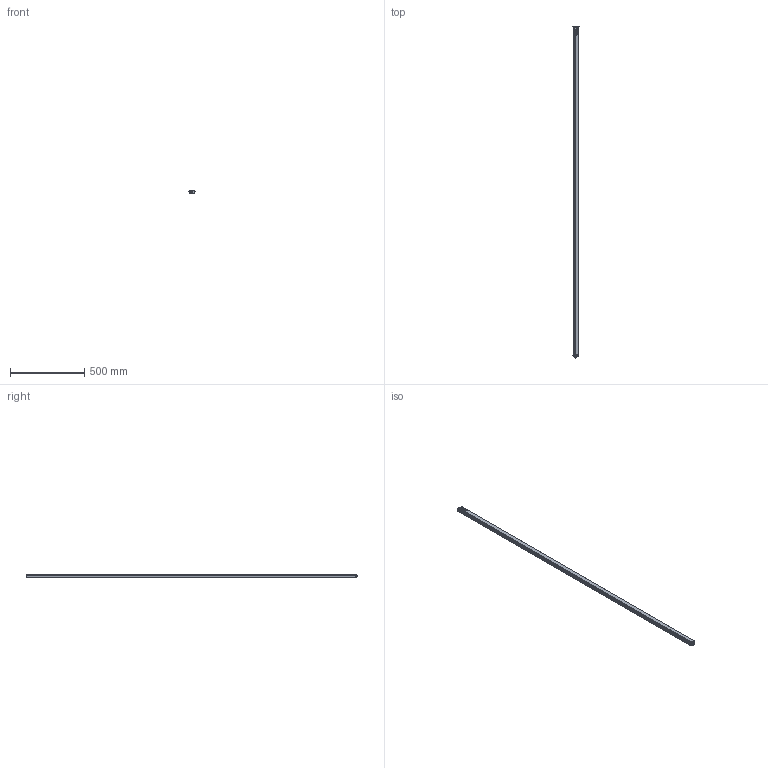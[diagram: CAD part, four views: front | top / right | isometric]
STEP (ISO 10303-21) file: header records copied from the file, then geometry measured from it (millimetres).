
FILE_DESCRIPTION(/* description */ (''),/* implementation_level */ '2;1');
FILE_NAME(/* name */ 'C:\Users\andre\SynologyDrive\Optoscan\Libreria Componenti\00 - Barriere\Polaris sorgente\Polaris_2208_TX.stp',/* time_stamp */ '2021-06-04T11:27:03+02:00',/* author */ ('andre'),/* organization */ (''),/* preprocessor_version */ 'ST-DEVELOPER v18',/* originating_system */ 'Autodesk Inventor 2020',/* authorisation */ '');
FILE_SCHEMA (('AUTOMOTIVE_DESIGN { 1 0 10303 214 3 1 1 }'));
Length unit declared in the file: millimetre
Products named in the file (1): Polaris_2208_TX
Bounding box: 40.5 x 2240.8 x 20.75 mm (x, y, z)
Volume: 439994.9 mm3; surface area: 582447.3 mm2
Topology: 1 solids, 1 shells, 738 faces, 2048 edges, 1320 vertices
Faces by surface type: plane 331, cylinder 207, bspline 115, torus 71, cone 8, sphere 6
Full cylindrical faces by diameter (mm): 1 x8, 2.459 x4, 2.5 x4, 3 x4, 3.5 x4, 5.5 x4, 8 x1, 10.5 x2, 11.75 x9, 12 x1, 12.3 x2, 14.5 x1, 16.7 x1, 17.5 x1
Entity records: 30426 total; most frequent: CARTESIAN_POINT 11243, ORIENTED_EDGE 4082, DIRECTION 3549, EDGE_CURVE 2041, VERTEX_POINT 1321, AXIS2_PLACEMENT_3D 1243, LINE 1063, VECTOR 1063
